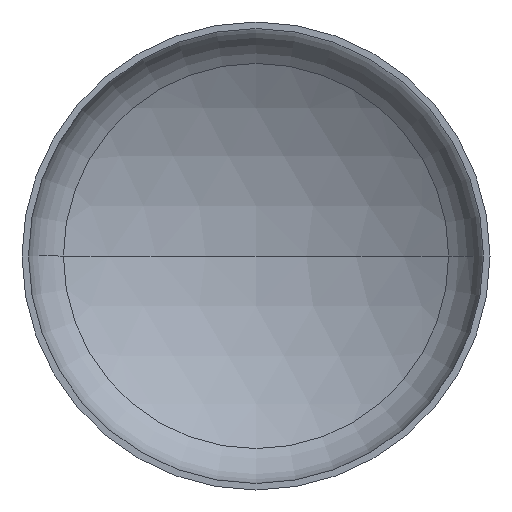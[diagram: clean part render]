
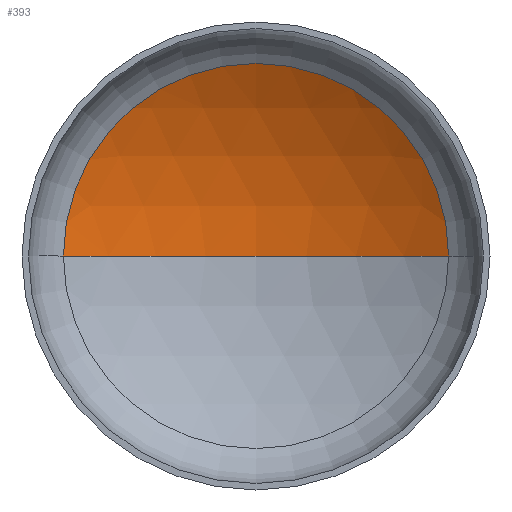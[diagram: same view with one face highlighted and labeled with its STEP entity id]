
A CAD part, front view. The second image highlights one B-rep face of the part: STEP entity #393.
In plain terms, the highlighted spherical face has radius 1200 mm.
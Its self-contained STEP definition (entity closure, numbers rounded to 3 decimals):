
#10 = DIRECTION ( 'NONE',  ( 0., 0., -1. ) ) ;
#12 = EDGE_LOOP ( 'NONE', ( #104, #88, #39 ) ) ;
#20 = AXIS2_PLACEMENT_3D ( 'NONE', #189, #350, #92 ) ;
#29 = AXIS2_PLACEMENT_3D ( 'NONE', #272, #83, #385 ) ;
#36 = VERTEX_POINT ( 'NONE', #250 ) ;
#39 = ORIENTED_EDGE ( 'NONE', *, *, #342, .T. ) ;
#67 = CARTESIAN_POINT ( 'NONE',  ( 0., -761.805, 0. ) ) ;
#83 = DIRECTION ( 'NONE',  ( 0., -1., 0. ) ) ;
#88 = ORIENTED_EDGE ( 'NONE', *, *, #376, .T. ) ;
#92 = DIRECTION ( 'NONE',  ( 1., 0., 0. ) ) ;
#104 = ORIENTED_EDGE ( 'NONE', *, *, #374, .F. ) ;
#106 = VERTEX_POINT ( 'NONE', #227 ) ;
#160 = DIRECTION ( 'NONE',  ( 0., 0., -1. ) ) ;
#182 = AXIS2_PLACEMENT_3D ( 'NONE', #67, #160, #388 ) ;
#189 = CARTESIAN_POINT ( 'NONE',  ( 0., -761.805, 0. ) ) ;
#205 = CARTESIAN_POINT ( 'NONE',  ( -617.32, 267.232, 0. ) ) ;
#218 = CIRCLE ( 'NONE', #20, 1200. ) ;
#227 = CARTESIAN_POINT ( 'NONE',  ( 0., 438.195, 0. ) ) ;
#250 = CARTESIAN_POINT ( 'NONE',  ( 617.32, 267.232, 0. ) ) ;
#257 = CARTESIAN_POINT ( 'NONE',  ( 0., -761.805, 0. ) ) ;
#272 = CARTESIAN_POINT ( 'NONE',  ( 0., 267.232, 0. ) ) ;
#273 = DIRECTION ( 'NONE',  ( -1., 0., 0. ) ) ;
#281 = VERTEX_POINT ( 'NONE', #205 ) ;
#337 = CIRCLE ( 'NONE', #391, 1200. ) ;
#342 = EDGE_CURVE ( 'NONE', #36, #281, #351, .T. ) ;
#350 = DIRECTION ( 'NONE',  ( 0., 0., 1. ) ) ;
#351 = CIRCLE ( 'NONE', #29, 617.32 ) ;
#374 = EDGE_CURVE ( 'NONE', #106, #281, #218, .T. ) ;
#376 = EDGE_CURVE ( 'NONE', #106, #36, #337, .T. ) ;
#385 = DIRECTION ( 'NONE',  ( 1., 0., 0. ) ) ;
#386 = SPHERICAL_SURFACE ( 'NONE', #182, 1200. ) ;
#388 = DIRECTION ( 'NONE',  ( -1., 0., 0. ) ) ;
#391 = AXIS2_PLACEMENT_3D ( 'NONE', #257, #10, #273 ) ;
#393 = ADVANCED_FACE ( 'NONE', ( #397 ), #386, .F. ) ;
#397 = FACE_OUTER_BOUND ( 'NONE', #12, .T. ) ;
